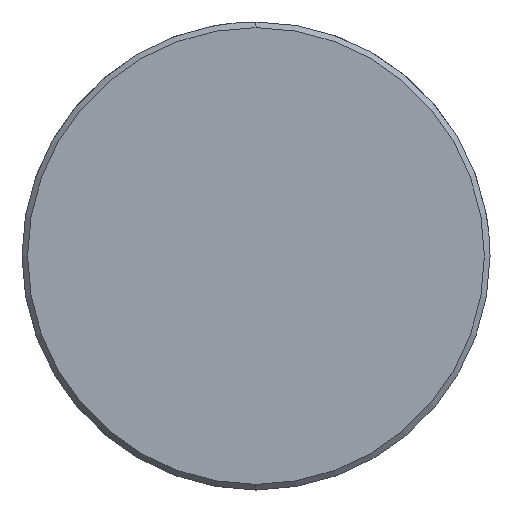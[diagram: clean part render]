
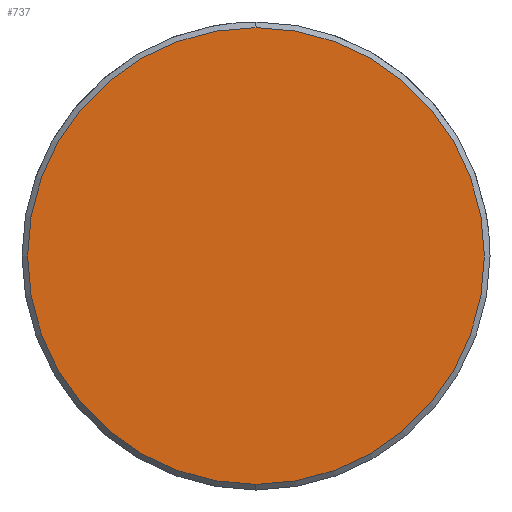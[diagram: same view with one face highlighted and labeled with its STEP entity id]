
A CAD part, left-side view. The second image highlights one B-rep face of the part: STEP entity #737.
In plain terms, the highlighted planar face has unit normal (-1, 0, 0).
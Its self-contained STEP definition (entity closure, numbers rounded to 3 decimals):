
#669=CARTESIAN_POINT('Vertex',(0.,0.,-12.2)) ;
#672=CARTESIAN_POINT('Axis2P3D Location',(0.,0.,0.)) ;
#676=CARTESIAN_POINT('Vertex',(0.,12.2,0.)) ;
#679=CARTESIAN_POINT('Axis2P3D Location',(0.,0.,0.)) ;
#683=CARTESIAN_POINT('Vertex',(0.,0.,12.2)) ;
#705=CARTESIAN_POINT('Axis2P3D Location',(0.,0.,0.)) ;
#709=CARTESIAN_POINT('Vertex',(0.,-12.2,0.)) ;
#712=CARTESIAN_POINT('Axis2P3D Location',(0.,0.,0.)) ;
#726=CARTESIAN_POINT('Axis2P3D Location',(0.,0.,0.)) ;
#673=DIRECTION('Axis2P3D Direction',(1.,0.,-0.)) ;
#680=DIRECTION('Axis2P3D Direction',(1.,0.,-0.)) ;
#706=DIRECTION('Axis2P3D Direction',(1.,0.,-0.)) ;
#713=DIRECTION('Axis2P3D Direction',(1.,0.,-0.)) ;
#727=DIRECTION('Axis2P3D Direction',(1.,0.,-0.)) ;
#728=DIRECTION('Axis2P3D XDirection',(-0.,0.,-1.)) ;
#674=AXIS2_PLACEMENT_3D('Circle Axis2P3D',#672,#673,$) ;
#681=AXIS2_PLACEMENT_3D('Circle Axis2P3D',#679,#680,$) ;
#707=AXIS2_PLACEMENT_3D('Circle Axis2P3D',#705,#706,$) ;
#714=AXIS2_PLACEMENT_3D('Circle Axis2P3D',#712,#713,$) ;
#729=AXIS2_PLACEMENT_3D('Plane Axis2P3D',#726,#727,#728) ;
#732=ORIENTED_EDGE('',*,*,#678,.F.) ;
#733=ORIENTED_EDGE('',*,*,#716,.F.) ;
#734=ORIENTED_EDGE('',*,*,#711,.F.) ;
#735=ORIENTED_EDGE('',*,*,#685,.F.) ;
#737=ADVANCED_FACE('549-22X280',(#736),#730,.F.) ;
#675=CIRCLE('generated circle',#674,12.2) ;
#682=CIRCLE('generated circle',#681,12.2) ;
#708=CIRCLE('generated circle',#707,12.2) ;
#715=CIRCLE('generated circle',#714,12.2) ;
#678=EDGE_CURVE('',#670,#677,#675,.T.) ;
#685=EDGE_CURVE('',#677,#684,#682,.T.) ;
#711=EDGE_CURVE('',#684,#710,#708,.T.) ;
#716=EDGE_CURVE('',#710,#670,#715,.T.) ;
#731=EDGE_LOOP('',(#732,#733,#734,#735)) ;
#736=FACE_OUTER_BOUND('',#731,.T.) ;
#730=PLANE('Plane',#729) ;
#670=VERTEX_POINT('',#669) ;
#677=VERTEX_POINT('',#676) ;
#684=VERTEX_POINT('',#683) ;
#710=VERTEX_POINT('',#709) ;
